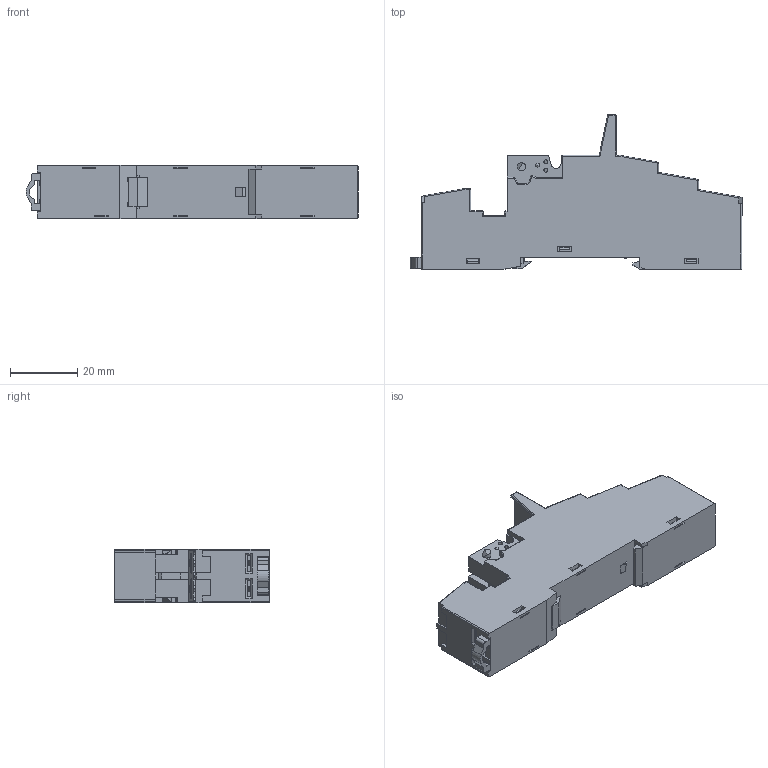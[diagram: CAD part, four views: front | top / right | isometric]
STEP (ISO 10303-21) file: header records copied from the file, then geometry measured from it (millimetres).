
FILE_DESCRIPTION(/* description */ (''),/* implementation_level */ '2;1');
FILE_NAME(/* name */ 'C:\Desktop\FIERA\95.P3\95.P3.stp',/* time_stamp */ '2015-03-06T11:06:29+01:00',/* author */ ('marco'),/* organization */ (''),/* preprocessor_version */ 'ST-DEVELOPER v15.6',/* originating_system */ 'Autodesk Inventor 2015',/* authorisation */ '');
FILE_SCHEMA (('AUTOMOTIVE_DESIGN { 1 0 10303 214 3 1 1 }'));
Products named in the file (1): Assieme 95.03
Bounding box: 98.9 x 46 x 15.8 mm (x, y, z)
Volume: 34500.9 mm3; surface area: 18788.9 mm2
Topology: 2 solids, 3 shells, 1835 faces, 4944 edges, 3137 vertices
Faces by surface type: plane 1366, cylinder 341, torus 55, cone 45, sphere 16, bspline 12
Full cylindrical faces by diameter (mm): 1.2 x4, 2.1 x5, 2.5 x2
Entity records: 58781 total; most frequent: CARTESIAN_POINT 10552, ORIENTED_EDGE 9834, DIRECTION 9255, EDGE_CURVE 4917, LINE 4083, VECTOR 4083, VERTEX_POINT 3129, AXIS2_PLACEMENT_3D 2586
